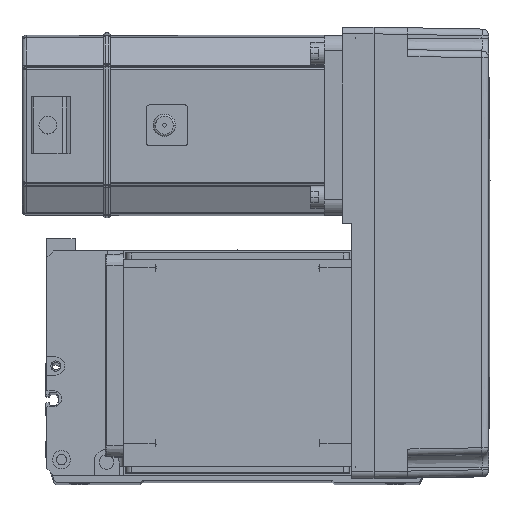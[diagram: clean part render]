
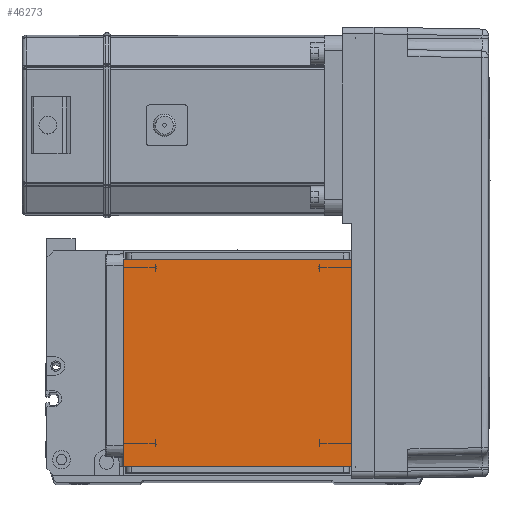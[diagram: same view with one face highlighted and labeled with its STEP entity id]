
A CAD part, top view. The second image highlights one B-rep face of the part: STEP entity #46273.
In plain terms, the highlighted planar face has unit normal (0, 0, 1).
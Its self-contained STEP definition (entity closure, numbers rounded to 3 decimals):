
#472 = EDGE_CURVE ( 'NONE', #5437, #10950, #12868, .T. ) ;
#2838 = DIRECTION ( 'NONE',  ( -1., 0., 0. ) ) ;
#3706 = LINE ( 'NONE', #19955, #28226 ) ;
#3894 = DIRECTION ( 'NONE',  ( 0., 0., 1. ) ) ;
#4418 = CARTESIAN_POINT ( 'NONE',  ( -50.5, 20., 115. ) ) ;
#5437 = VERTEX_POINT ( 'NONE', #28154 ) ;
#6291 = CARTESIAN_POINT ( 'NONE',  ( 50.5, 122., 115. ) ) ;
#6684 = ORIENTED_EDGE ( 'NONE', *, *, #21836, .F. ) ;
#7671 = CARTESIAN_POINT ( 'NONE',  ( -50.5, 122., 115. ) ) ;
#8778 = VECTOR ( 'NONE', #38271, 1000. ) ;
#8997 = AXIS2_PLACEMENT_3D ( 'NONE', #29964, #3894, #38681 ) ;
#10950 = VERTEX_POINT ( 'NONE', #36694 ) ;
#11843 = EDGE_LOOP ( 'NONE', ( #32310, #12107, #6684, #29407 ) ) ;
#12107 = ORIENTED_EDGE ( 'NONE', *, *, #31007, .T. ) ;
#12868 = LINE ( 'NONE', #6291, #13577 ) ;
#13577 = VECTOR ( 'NONE', #45464, 1000. ) ;
#19955 = CARTESIAN_POINT ( 'NONE',  ( -70.004, 20., 115. ) ) ;
#20334 = LINE ( 'NONE', #7671, #8778 ) ;
#21836 = EDGE_CURVE ( 'NONE', #5437, #47906, #3706, .T. ) ;
#24213 = EDGE_CURVE ( 'NONE', #26262, #10950, #26058, .T. ) ;
#26058 = LINE ( 'NONE', #32370, #54660 ) ;
#26262 = VERTEX_POINT ( 'NONE', #32624 ) ;
#28154 = CARTESIAN_POINT ( 'NONE',  ( 50.5, 20., 115. ) ) ;
#28226 = VECTOR ( 'NONE', #2838, 1000. ) ;
#29407 = ORIENTED_EDGE ( 'NONE', *, *, #472, .T. ) ;
#29964 = CARTESIAN_POINT ( 'NONE',  ( 0., 0., 115. ) ) ;
#31007 = EDGE_CURVE ( 'NONE', #26262, #47906, #20334, .T. ) ;
#32310 = ORIENTED_EDGE ( 'NONE', *, *, #24213, .F. ) ;
#32370 = CARTESIAN_POINT ( 'NONE',  ( -70.004, 111.5, 115. ) ) ;
#32624 = CARTESIAN_POINT ( 'NONE',  ( -50.5, 111.5, 115. ) ) ;
#36694 = CARTESIAN_POINT ( 'NONE',  ( 50.5, 111.5, 115. ) ) ;
#38271 = DIRECTION ( 'NONE',  ( 0., -1., 0. ) ) ;
#38681 = DIRECTION ( 'NONE',  ( 1., 0., 0. ) ) ;
#41216 = FACE_OUTER_BOUND ( 'NONE', #11843, .T. ) ;
#45464 = DIRECTION ( 'NONE',  ( 0., 1., 0. ) ) ;
#46273 = ADVANCED_FACE ( 'NONE', ( #41216 ), #51644, .T. ) ;
#47906 = VERTEX_POINT ( 'NONE', #4418 ) ;
#49664 = DIRECTION ( 'NONE',  ( 1., 0., 0. ) ) ;
#51644 = PLANE ( 'NONE',  #8997 ) ;
#54660 = VECTOR ( 'NONE', #49664, 1000. ) ;
